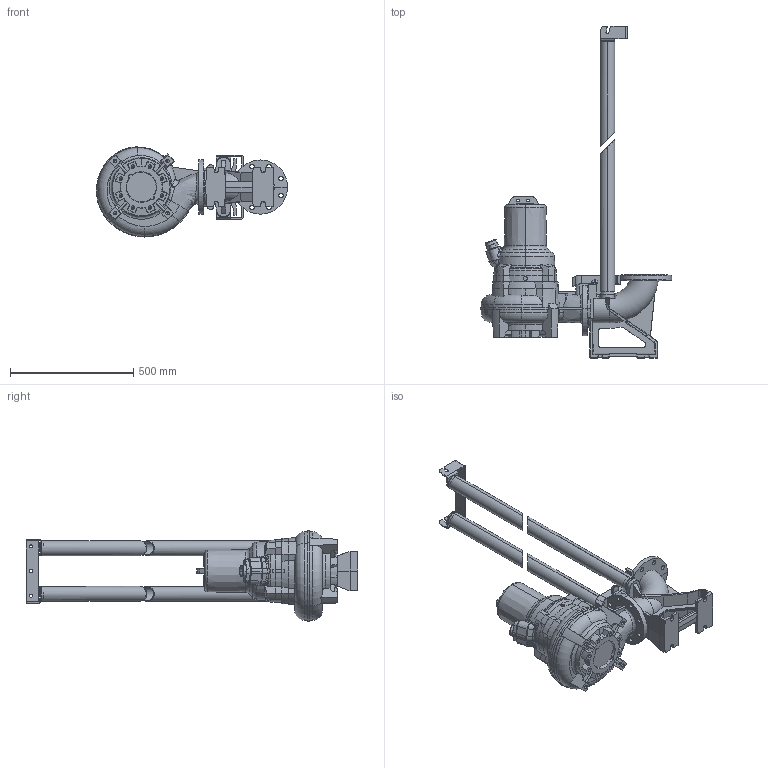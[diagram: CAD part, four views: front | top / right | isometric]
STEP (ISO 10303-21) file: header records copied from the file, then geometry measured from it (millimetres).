
FILE_DESCRIPTION (( 'STEP AP203' ), '1' );
FILE_NAME ('100FWC-M_2,2-3,1kW COUPLING SYSTEM.STEP', '2025-03-21T16:23:15', ( '' ), ( '' ), 'SwSTEP 2.0', 'SolidWorks 2023', '' );
FILE_SCHEMA (( 'CONFIG_CONTROL_DESIGN' ));
Length unit declared in the file: millimetre
Products named in the file (1): 100FWC-M_2,2-3,1kW COUPLING SYSTEM
Bounding box: 775.26 x 1345.76 x 365.91 mm (x, y, z)
Volume: 34192411.2 mm3; surface area: 2133799.8 mm2
Topology: 2 solids, 2 shells, 986 faces, 2643 edges, 1692 vertices
Faces by surface type: plane 469, cone 185, cylinder 182, bspline 83, torus 58, sphere 9
Entity records: 40466 total; most frequent: CARTESIAN_POINT 16725, ORIENTED_EDGE 5262, DIRECTION 4572, EDGE_CURVE 2631, VERTEX_POINT 1692, AXIS2_PLACEMENT_3D 1692, VECTOR 1188, LINE 1188
